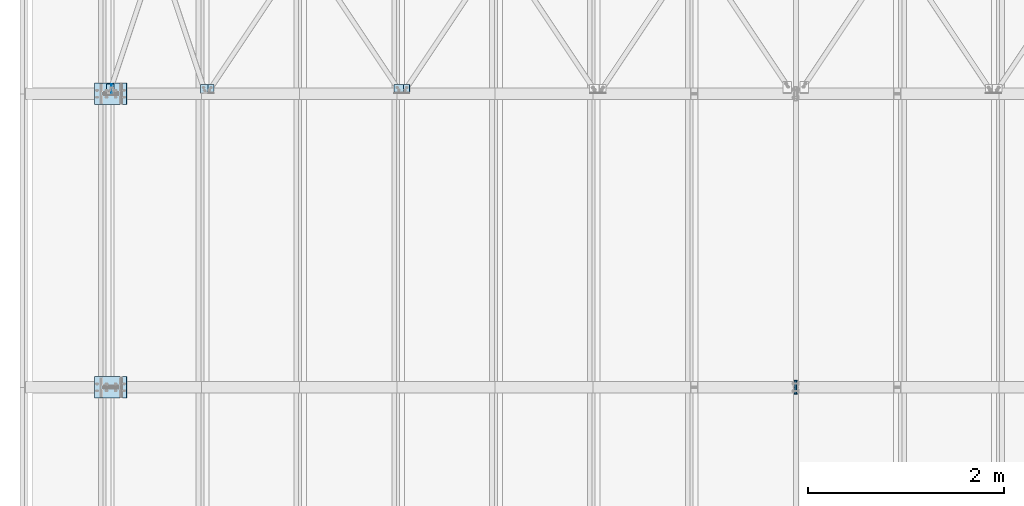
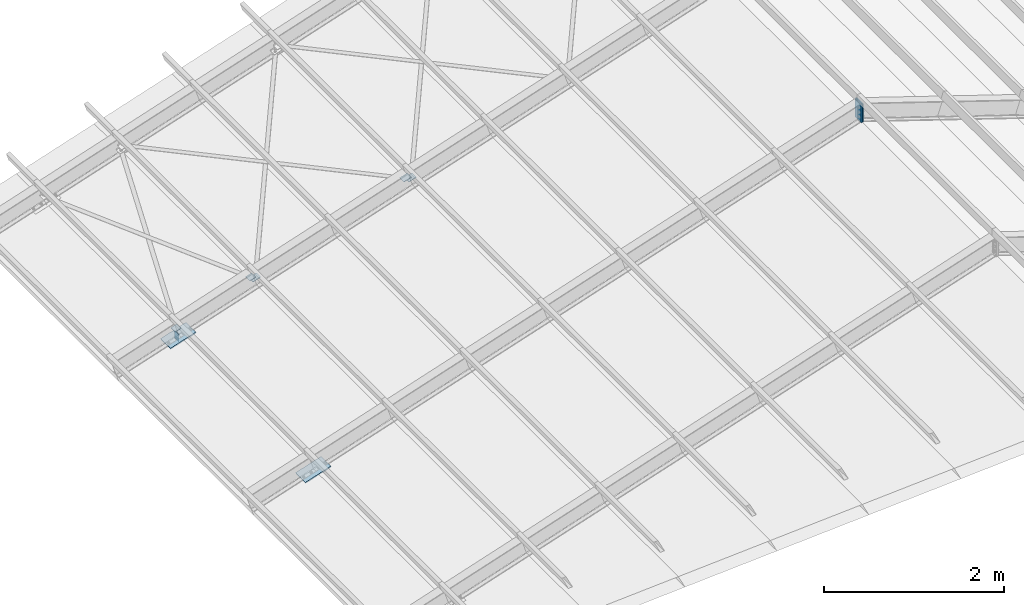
# One storey, part 6 of 53: 10 plates.
"""IFC4 building model written with IfcOpenShell, lengths in metres."""

from ifc_helpers import new_model, si_unit, frame, origin_with_axes, place, context, project, spatial, polyline, outline, extrude, type_object, element, save


model = new_model("IFC4")

# Units and contexts
model_context = context("Model", 3, precision=1e-05, world=origin_with_axes())
ifc_project = project(units=[si_unit("LENGTHUNIT", "METRE"), si_unit("AREAUNIT", "SQUARE_METRE"), si_unit("VOLUMEUNIT", "CUBIC_METRE"), si_unit("MASSUNIT", "GRAM", prefix="KILO"), si_unit("TIMEUNIT", "SECOND"), si_unit("PLANEANGLEUNIT", "RADIAN"), si_unit("SOLIDANGLEUNIT", "STERADIAN"), si_unit("THERMODYNAMICTEMPERATUREUNIT", "DEGREE_CELSIUS")], contexts=[model_context])

# Site, building, storey
placement_1 = place(None, origin_with_axes())
site = spatial("IfcSite", under=ifc_project, at=placement_1, Name="Italia", CompositionType="ELEMENT")
building = spatial("IfcBuilding", under=site, at=placement_1, Name="Capannone", CompositionType="ELEMENT")
storey_placement = place(None, frame((0.0, 0.0, 5.550000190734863), z_axis=(0.0, 0.0, 1.0), x_axis=(1.0, 0.0, 0.0)))
storey = spatial("IfcBuildingStorey", under=building, at=storey_placement, Name="Storey 1", CompositionType="ELEMENT", Elevation=5.550000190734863)

# Plates
plate_type_1 = type_object("IfcPlateType", Name="Collegamento -1055_-1089", PredefinedType="SHEET")
placement_2 = place(placement_1, origin_with_axes())
plate_1_placement = place(placement_2, origin_with_axes())
element("IfcPlate", 1, at=plate_1_placement, inside=storey, type_object=plate_type_1, Name="Collegamento -1055_-1089", context=model_context, shape_type="SweptSolid", body=[
    extrude(outline(polyline([(0.0, 0.0), (-0.0939989, -7.15256e-07), (-0.0939999, -0.102001), (0.0, -0.102), (0.0, 0.0)])), frame((1.0532, 12.0971, 5.9671), z_axis=(0.31215512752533, 0.0, -0.950031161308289), x_axis=(0.0, 1.0, 0.0)), (0.0, 0.0, 1.0), 0.0050001),
])
plate_type_2 = type_object("IfcPlateType", Name="Collegamento -1055_0111", PredefinedType="SHEET")
plate_2_placement = place(placement_2, origin_with_axes())
element("IfcPlate", 2, at=plate_2_placement, inside=storey, type_object=plate_type_2, Name="Collegamento -1055_0111", context=model_context, shape_type="SweptSolid", body=[
    extrude(outline(polyline([(0.0, 0.0), (-0.0939999, -9.53674e-07), (-0.0940008, -0.0800006), (-9.53674e-07, -0.0799999), (0.0, 0.0)])), frame((0.990111, 12.0971, 5.98848), z_axis=(0.31215512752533, 0.0, -0.950031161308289), x_axis=(0.0, 1.0, 0.0)), (0.0, 0.0, 1.0), 0.0050001),
])
plate_type_3 = type_object("IfcPlateType", Name="Collegamento -1087_-1057", PredefinedType="SHEET")
plate_3_placement = place(placement_2, origin_with_axes())
element("IfcPlate", 3, at=plate_3_placement, inside=storey, type_object=plate_type_3, Name="Collegamento -1087_-1057", context=model_context, shape_type="SweptSolid", body=[
    extrude(outline(polyline([(0.0, 0.0), (-0.0940008, 0.0), (-0.0940008, -0.102001), (-9.53674e-07, -0.102), (0.0, 0.0)])), frame((2.98908, 12.0971, 6.64528), z_axis=(0.312262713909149, 0.0, -0.949995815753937), x_axis=(0.0, 1.0, 0.0)), (0.0, 0.0, 1.0), 0.00500029),
])
plate_type_4 = type_object("IfcPlateType", Name="Collegamento -1087_-1121", PredefinedType="SHEET")
plate_4_placement = place(placement_2, origin_with_axes())
element("IfcPlate", 4, at=plate_4_placement, inside=storey, type_object=plate_type_4, Name="Collegamento -1087_-1121", context=model_context, shape_type="SweptSolid", body=[
    extrude(outline(polyline([(0.0, 0.0), (-0.0939999, 0.0), (-0.0940008, -0.102), (-9.53674e-07, -0.102), (0.0, 0.0)])), frame((3.0532, 12.0971, 6.62424), z_axis=(0.312161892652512, 0.0, -0.950028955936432), x_axis=(0.0, 1.0, 0.0)), (0.0, 0.0, 1.0), 0.00499961),
])
plate_type_5 = type_object("IfcPlateType", Name="Collegamenti -1142_-1128 -1143_-1130 -1144_-1132 -1145_-1134 -1146_-1136 -1147_-1138", PredefinedType="SHEET")
plate_5_placement = place(placement_2, origin_with_axes())
element("IfcPlate", 5, at=plate_5_placement, inside=storey, type_object=plate_type_5, Name="Collegamenti -1142_-1128 -1143_-1130 -1144_-1132 -1145_-1134 -1146_-1136 -1147_-1138", context=model_context, shape_type="SweptSolid", body=[
    extrude(outline(polyline([(0.0, 0.0), (-0.139999, 0.0), (-0.139999, 0.25262), (0.0, 0.25262), (0.0, 0.0)])), frame((7.015, 8.93, 7.84507), z_axis=(-1.0, 0.0, -3.1788415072e-05), x_axis=(0.0, -1.0, 0.0)), (0.0, 0.0, 1.0), 0.0150003),
])
plate_type_6 = type_object("IfcPlateType", Name="Collegamenti -1142_-1128 -1143_-1130 -1144_-1132 -1145_-1134 -1146_-1136 -1147_-1138", PredefinedType="SHEET")
plate_6_placement = place(placement_2, origin_with_axes())
element("IfcPlate", 6, at=plate_6_placement, inside=storey, type_object=plate_type_6, Name="Collegamenti -1142_-1128 -1143_-1130 -1144_-1132 -1145_-1134 -1146_-1136 -1147_-1138", context=model_context, shape_type="SweptSolid", body=[
    extrude(outline(polyline([(0.0, 0.0), (-0.139999, 0.0), (-0.139999, 0.252625), (0.0, 0.252625), (0.0, 0.0)])), frame((7.0, 8.93, 7.84507), z_axis=(-1.0, 0.0, 0.0), x_axis=(0.0, -1.0, 0.0)), (0.0, 0.0, 1.0), 0.0150003),
])
plate_type_7 = type_object("IfcPlateType", Name="Collegamenti 0101_0001 0103_0003 0105_0005 0107_0007 0109_0009 0111_0011", PredefinedType="SHEET")
plate_7_placement = place(placement_2, origin_with_axes())
element("IfcPlate", 7, at=plate_7_placement, inside=storey, type_object=plate_type_7, Name="Collegamenti 0101_0001 0103_0003 0105_0005 0107_0007 0109_0009 0111_0011", context=model_context, shape_type="SweptSolid", body=[
    extrude(outline(polyline([(0.0, 0.0), (0.219999, 0.0), (0.219999, -0.34504), (0.0, -0.34504), (0.0, 0.0)])), frame((0.163898, 9.11, 5.58806), z_axis=(-0.312147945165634, 0.0, 0.950033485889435), x_axis=(0.0, -1.0, 0.0)), (0.0, 0.0, 1.0), 0.0150003),
])
plate_type_8 = type_object("IfcPlateType", Name="Collegamenti 0101_0001 0103_0003 0105_0005 0107_0007 0109_0009 0111_0011", PredefinedType="SHEET")
plate_8_placement = place(placement_2, origin_with_axes())
element("IfcPlate", 8, at=plate_8_placement, inside=storey, type_object=plate_type_8, Name="Collegamenti 0101_0001 0103_0003 0105_0005 0107_0007 0109_0009 0111_0011", context=model_context, shape_type="SweptSolid", body=[
    extrude(outline(polyline([(0.0, 0.0), (0.219999, 0.0), (0.219999, -0.34504), (0.0, -0.34504), (0.0, 0.0)])), frame((0.163898, 12.11, 5.58806), z_axis=(-0.312147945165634, 0.0, 0.950033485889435), x_axis=(0.0, -1.0, 0.0)), (0.0, 0.0, 1.0), 0.0150003),
])
plate_type_9 = type_object("IfcPlateType", Name="Collegamento 0109_-1057", PredefinedType="SHEET")
plate_9_placement = place(placement_2, origin_with_axes())
element("IfcPlate", 9, at=plate_9_placement, inside=storey, type_object=plate_type_9, Name="Collegamento 0109_-1057", context=model_context, shape_type="SweptSolid", body=[
    extrude(outline(polyline([(0.0, 0.0), (-0.0939989, 5.96046e-07), (-0.0939989, -0.0799994), (9.53674e-07, -0.0799998), (0.0, 0.0)])), frame((0.031397, 12.0975, 5.63137), z_axis=(0.312176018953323, 0.0, -0.950024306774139), x_axis=(0.0, 1.0, 0.0)), (0.0, 0.0, 1.0), 0.00499964),
])
plate_type_10 = type_object("IfcPlateType", Name="Collegamento 0109_0011", PredefinedType="SHEET")
plate_10_placement = place(placement_2, origin_with_axes())
element("IfcPlate", 10, at=plate_10_placement, inside=storey, type_object=plate_type_10, Name="Collegamento 0109_0011", context=model_context, shape_type="SweptSolid", body=[
    extrude(outline(polyline([(0.0, 0.0), (0.092, 4.76837e-07), (0.092, -0.104), (0.0, -0.104), (0.0, 0.0)])), frame((0.008, 12.0955, 5.55388), z_axis=(-1.0, 0.0, 0.0), x_axis=(0.0, -1.0, 0.0)), (0.0, 0.0, 1.0), 0.004),
])

save(model, "model.ifc")
